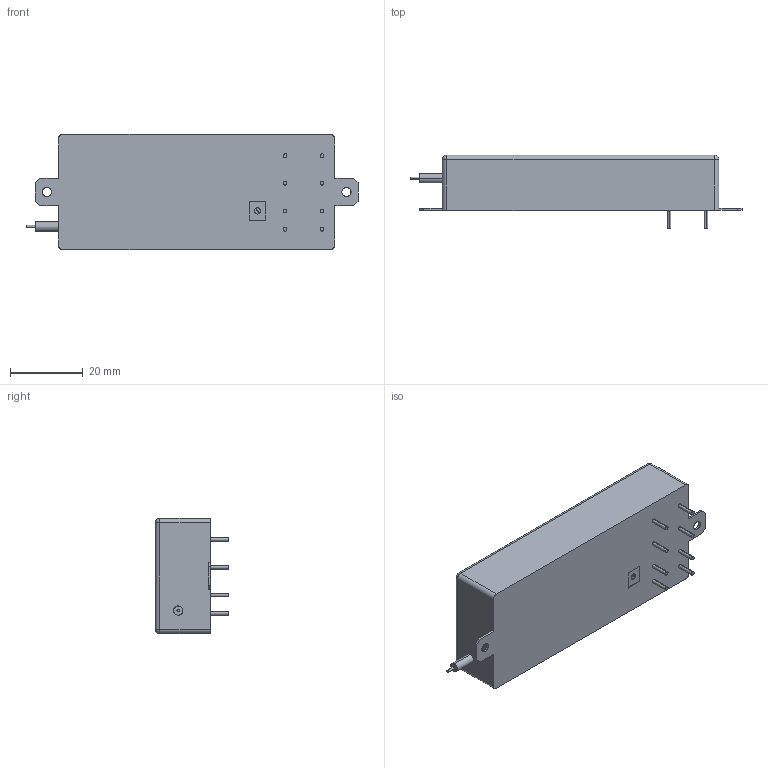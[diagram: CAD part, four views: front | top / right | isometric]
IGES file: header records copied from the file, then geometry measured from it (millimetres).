
Start section: SolidWorks IGES file using analytic representation for surfaces
Global section: file name: C:\Users\asmith\Desktop\~For Darol\Checked .igs Files\CB-Series\CB101.IGS; native system: SolidWorks 2017; preprocessor: SolidWorks 2017; author: asmith; date: 171113.102210; units: inch
Bounding box: 91.44 x 20.32 x 31.75 mm (x, y, z)
Surface area: 8358.8 mm2 (no closed solid volume)
Topology: 0 solids, 0 shells, 76 faces, 858 edges, 854 vertices
Faces by surface type: revolution 38, bspline 38
